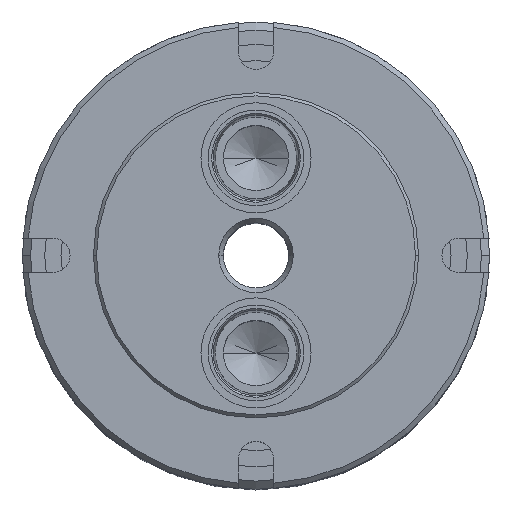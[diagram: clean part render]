
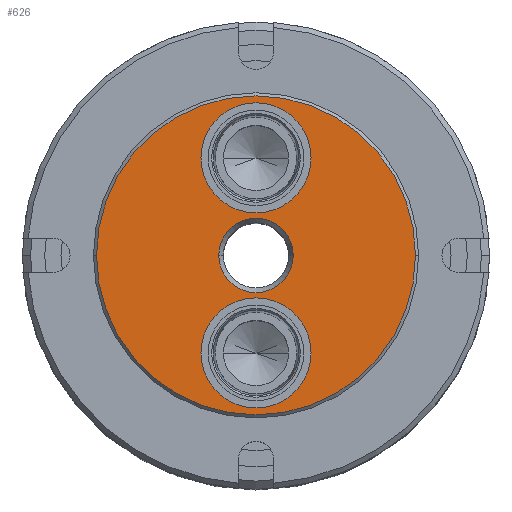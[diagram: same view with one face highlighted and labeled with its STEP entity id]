
A CAD part, top view. The second image highlights one B-rep face of the part: STEP entity #626.
In plain terms, the highlighted planar face has unit normal (0, 0, 1).
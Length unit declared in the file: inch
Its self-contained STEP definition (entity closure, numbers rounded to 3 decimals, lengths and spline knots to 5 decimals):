
#19 = CARTESIAN_POINT ( 'NONE',  ( 0., 1.5, 0. ) ) ;
#20 = DIRECTION ( 'NONE',  ( 0., 0., 1. ) ) ;
#21 = DIRECTION ( 'NONE',  ( 1., 0., 0. ) ) ;
#49 = CARTESIAN_POINT ( 'NONE',  ( 0., 0., 0. ) ) ;
#50 = DIRECTION ( 'NONE',  ( 0., 0., 1. ) ) ;
#51 = DIRECTION ( 'NONE',  ( -1., 0., 0. ) ) ;
#77 = CARTESIAN_POINT ( 'NONE',  ( 0., 0., 0. ) ) ;
#78 = DIRECTION ( 'NONE',  ( 0., 0., -1. ) ) ;
#79 = DIRECTION ( 'NONE',  ( -1., 0., 0. ) ) ;
#387 = EDGE_CURVE ( 'NONE', #3735, #3731, #888, .T. ) ;
#512 = EDGE_CURVE ( 'NONE', #3722, #3787, #931, .T. ) ;
#559 = EDGE_CURVE ( 'NONE', #3762, #3771, #4103, .T. ) ;
#626 = ADVANCED_FACE ( 'NONE', ( #4818, #4820, #4822, #4824 ), #4817, .F. ) ;
#745 = AXIS2_PLACEMENT_3D ( 'NONE', #1626, #1627, #1628 ) ;
#888 = CIRCLE ( 'NONE', #745, 0.5722 ) ;
#926 = AXIS2_PLACEMENT_3D ( 'NONE', #4224, #4225, #4226 ) ;
#931 = CIRCLE ( 'NONE', #926, 0.847 ) ;
#1199 = AXIS2_PLACEMENT_3D ( 'NONE', #4821, #4804, #4825 ) ;
#1401 = CIRCLE ( 'NONE', #1414, 2.453 ) ;
#1412 = CIRCLE ( 'NONE', #1416, 0.847 ) ;
#1414 = AXIS2_PLACEMENT_3D ( 'NONE', #5757, #5758, #5759 ) ;
#1416 = AXIS2_PLACEMENT_3D ( 'NONE', #5762, #5763, #5764 ) ;
#1512 = AXIS2_PLACEMENT_3D ( 'NONE', #19, #20, #21 ) ;
#1513 = CIRCLE ( 'NONE', #1512, 0.847 ) ;
#1520 = CIRCLE ( 'NONE', #1523, 2.453 ) ;
#1523 = AXIS2_PLACEMENT_3D ( 'NONE', #49, #50, #51 ) ;
#1535 = CIRCLE ( 'NONE', #1538, 0.5722 ) ;
#1538 = AXIS2_PLACEMENT_3D ( 'NONE', #77, #78, #79 ) ;
#1626 = CARTESIAN_POINT ( 'NONE',  ( 0., 0., 0. ) ) ;
#1627 = DIRECTION ( 'NONE',  ( 0., 0., -1. ) ) ;
#1628 = DIRECTION ( 'NONE',  ( -1., 0., 0. ) ) ;
#2668 = EDGE_CURVE ( 'NONE', #3768, #3765, #1401, .T. ) ;
#2669 = EDGE_CURVE ( 'NONE', #3787, #3722, #1412, .T. ) ;
#3023 = ORIENTED_EDGE ( 'NONE', *, *, #2668, .T. ) ;
#3024 = ORIENTED_EDGE ( 'NONE', *, *, #5160, .T. ) ;
#3025 = ORIENTED_EDGE ( 'NONE', *, *, #559, .F. ) ;
#3026 = ORIENTED_EDGE ( 'NONE', *, *, #5151, .F. ) ;
#3027 = ORIENTED_EDGE ( 'NONE', *, *, #2669, .F. ) ;
#3028 = ORIENTED_EDGE ( 'NONE', *, *, #512, .F. ) ;
#3029 = ORIENTED_EDGE ( 'NONE', *, *, #387, .T. ) ;
#3030 = ORIENTED_EDGE ( 'NONE', *, *, #5168, .T. ) ;
#3585 = EDGE_LOOP ( 'NONE', ( #3028, #3027 ) ) ;
#3600 = EDGE_LOOP ( 'NONE', ( #3030, #3029 ) ) ;
#3623 = EDGE_LOOP ( 'NONE', ( #3024, #3023 ) ) ;
#3642 = EDGE_LOOP ( 'NONE', ( #3026, #3025 ) ) ;
#3722 = VERTEX_POINT ( 'NONE', #5988 ) ;
#3731 = VERTEX_POINT ( 'NONE', #5997 ) ;
#3735 = VERTEX_POINT ( 'NONE', #6001 ) ;
#3762 = VERTEX_POINT ( 'NONE', #6028 ) ;
#3765 = VERTEX_POINT ( 'NONE', #6031 ) ;
#3768 = VERTEX_POINT ( 'NONE', #6034 ) ;
#3771 = VERTEX_POINT ( 'NONE', #6037 ) ;
#3787 = VERTEX_POINT ( 'NONE', #6053 ) ;
#4057 = AXIS2_PLACEMENT_3D ( 'NONE', #4455, #4456, #4457 ) ;
#4103 = CIRCLE ( 'NONE', #4057, 0.847 ) ;
#4224 = CARTESIAN_POINT ( 'NONE',  ( 0., -1.5, 0. ) ) ;
#4225 = DIRECTION ( 'NONE',  ( 0., 0., 1. ) ) ;
#4226 = DIRECTION ( 'NONE',  ( -1., 0., 0. ) ) ;
#4455 = CARTESIAN_POINT ( 'NONE',  ( 0., 1.5, 0. ) ) ;
#4456 = DIRECTION ( 'NONE',  ( 0., 0., 1. ) ) ;
#4457 = DIRECTION ( 'NONE',  ( 1., 0., 0. ) ) ;
#4804 = DIRECTION ( 'NONE',  ( 0., 0., -1. ) ) ;
#4817 = PLANE ( 'NONE',  #1199 ) ;
#4818 = FACE_BOUND ( 'NONE', #3600, .T. ) ;
#4820 = FACE_BOUND ( 'NONE', #3585, .T. ) ;
#4821 = CARTESIAN_POINT ( 'NONE',  ( 0., 0., 0. ) ) ;
#4822 = FACE_BOUND ( 'NONE', #3642, .T. ) ;
#4824 = FACE_OUTER_BOUND ( 'NONE', #3623, .T. ) ;
#4825 = DIRECTION ( 'NONE',  ( -1., 0., 0. ) ) ;
#5151 = EDGE_CURVE ( 'NONE', #3771, #3762, #1513, .T. ) ;
#5160 = EDGE_CURVE ( 'NONE', #3765, #3768, #1520, .T. ) ;
#5168 = EDGE_CURVE ( 'NONE', #3731, #3735, #1535, .T. ) ;
#5757 = CARTESIAN_POINT ( 'NONE',  ( 0., 0., 0. ) ) ;
#5758 = DIRECTION ( 'NONE',  ( 0., 0., 1. ) ) ;
#5759 = DIRECTION ( 'NONE',  ( -1., 0., 0. ) ) ;
#5762 = CARTESIAN_POINT ( 'NONE',  ( 0., -1.5, 0. ) ) ;
#5763 = DIRECTION ( 'NONE',  ( 0., 0., 1. ) ) ;
#5764 = DIRECTION ( 'NONE',  ( -1., 0., 0. ) ) ;
#5988 = CARTESIAN_POINT ( 'NONE',  ( 0.847, -1.5, 0. ) ) ;
#5997 = CARTESIAN_POINT ( 'NONE',  ( 0.5722, 0., 0. ) ) ;
#6001 = CARTESIAN_POINT ( 'NONE',  ( -0.5722, 0., 0. ) ) ;
#6028 = CARTESIAN_POINT ( 'NONE',  ( -0.847, 1.5, 0. ) ) ;
#6031 = CARTESIAN_POINT ( 'NONE',  ( -2.453, 0., 0. ) ) ;
#6034 = CARTESIAN_POINT ( 'NONE',  ( 2.453, 0., 0. ) ) ;
#6037 = CARTESIAN_POINT ( 'NONE',  ( 0.847, 1.5, 0. ) ) ;
#6053 = CARTESIAN_POINT ( 'NONE',  ( -0.847, -1.5, 0. ) ) ;
